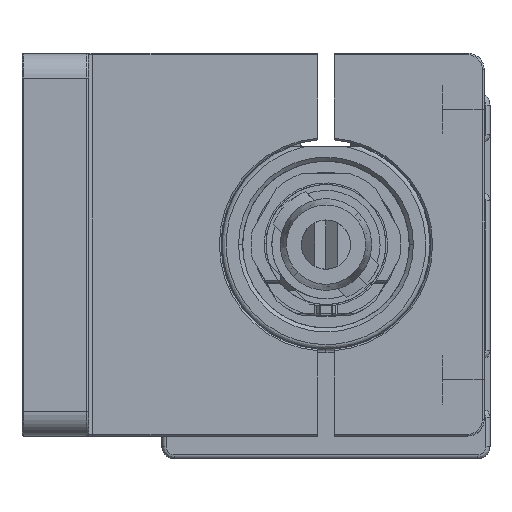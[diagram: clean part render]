
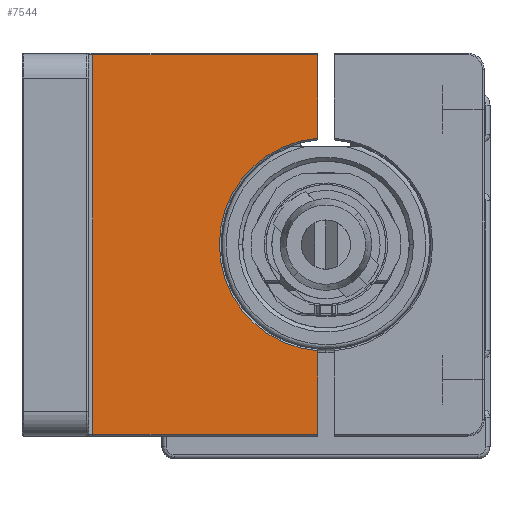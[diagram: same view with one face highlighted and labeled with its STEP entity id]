
A CAD part, front view. The second image highlights one B-rep face of the part: STEP entity #7544.
In plain terms, the highlighted planar face has unit normal (0, -1, 0) as drawn and (0, 0, 1) by its records, which use the part's own axes.
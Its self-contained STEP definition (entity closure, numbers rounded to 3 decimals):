
#18 = EDGE_LOOP ( 'NONE', ( #30661, #48080, #38301, #32821, #20050, #13032 ) ) ;
#795 = VECTOR ( 'NONE', #30886, 1000. ) ;
#3475 = VERTEX_POINT ( 'NONE', #37046 ) ;
#4375 = EDGE_CURVE ( 'NONE', #16558, #3475, #44807, .T. ) ;
#7544 = ADVANCED_FACE ( 'NONE', ( #20835 ), #49691, .T. ) ;
#8473 = VECTOR ( 'NONE', #32736, 1000. ) ;
#9714 = CARTESIAN_POINT ( 'NONE',  ( 0., 0., 8. ) ) ;
#13032 = ORIENTED_EDGE ( 'NONE', *, *, #27998, .T. ) ;
#14154 = VERTEX_POINT ( 'NONE', #18315 ) ;
#14311 = VECTOR ( 'NONE', #30705, 1000. ) ;
#14950 = CARTESIAN_POINT ( 'NONE',  ( 45.8, 7., 8. ) ) ;
#16311 = CARTESIAN_POINT ( 'NONE',  ( 0.2, 34., 8. ) ) ;
#16558 = VERTEX_POINT ( 'NONE', #42260 ) ;
#16685 = CARTESIAN_POINT ( 'NONE',  ( 45.8, 34., 8. ) ) ;
#18060 = CARTESIAN_POINT ( 'NONE',  ( 0., 7., 8. ) ) ;
#18315 = CARTESIAN_POINT ( 'NONE',  ( 0.2, 7., 8. ) ) ;
#20050 = ORIENTED_EDGE ( 'NONE', *, *, #4375, .F. ) ;
#20776 = AXIS2_PLACEMENT_3D ( 'NONE', #9714, #25683, #41797 ) ;
#20835 = FACE_OUTER_BOUND ( 'NONE', #18, .T. ) ;
#21180 = VECTOR ( 'NONE', #24740, 1000. ) ;
#21400 = VECTOR ( 'NONE', #38751, 1000. ) ;
#22296 = LINE ( 'NONE', #38078, #14311 ) ;
#22695 = CARTESIAN_POINT ( 'NONE',  ( 0.2, 7., 8. ) ) ;
#23697 = EDGE_CURVE ( 'NONE', #38161, #26353, #36927, .T. ) ;
#23921 = AXIS2_PLACEMENT_3D ( 'NONE', #33070, #28817, #29084 ) ;
#24740 = DIRECTION ( 'NONE',  ( 1., 0., 0. ) ) ;
#25683 = DIRECTION ( 'NONE',  ( 0., 0., 1. ) ) ;
#26353 = VERTEX_POINT ( 'NONE', #35302 ) ;
#27998 = EDGE_CURVE ( 'NONE', #16558, #26353, #34865, .T. ) ;
#28817 = DIRECTION ( 'NONE',  ( 0., 0., -1. ) ) ;
#29084 = DIRECTION ( 'NONE',  ( 1., 0., 0. ) ) ;
#30661 = ORIENTED_EDGE ( 'NONE', *, *, #23697, .F. ) ;
#30705 = DIRECTION ( 'NONE',  ( 0., 1., 0. ) ) ;
#30886 = DIRECTION ( 'NONE',  ( 1., 0., 0. ) ) ;
#30918 = EDGE_CURVE ( 'NONE', #31846, #3475, #22296, .T. ) ;
#31846 = VERTEX_POINT ( 'NONE', #14950 ) ;
#32736 = DIRECTION ( 'NONE',  ( 1., 0., 0. ) ) ;
#32821 = ORIENTED_EDGE ( 'NONE', *, *, #30918, .T. ) ;
#33070 = CARTESIAN_POINT ( 'NONE',  ( 23., 35., 8. ) ) ;
#34282 = LINE ( 'NONE', #22695, #21400 ) ;
#34865 = CIRCLE ( 'NONE', #23921, 12.8 ) ;
#35302 = CARTESIAN_POINT ( 'NONE',  ( 10.239, 34., 8. ) ) ;
#36089 = EDGE_CURVE ( 'NONE', #38161, #14154, #34282, .T. ) ;
#36927 = LINE ( 'NONE', #16685, #8473 ) ;
#37046 = CARTESIAN_POINT ( 'NONE',  ( 45.8, 34., 8. ) ) ;
#37580 = EDGE_CURVE ( 'NONE', #14154, #31846, #38012, .T. ) ;
#38012 = LINE ( 'NONE', #18060, #795 ) ;
#38078 = CARTESIAN_POINT ( 'NONE',  ( 45.8, 34., 8. ) ) ;
#38161 = VERTEX_POINT ( 'NONE', #16311 ) ;
#38301 = ORIENTED_EDGE ( 'NONE', *, *, #37580, .T. ) ;
#38751 = DIRECTION ( 'NONE',  ( 0., -1., 0. ) ) ;
#40051 = CARTESIAN_POINT ( 'NONE',  ( 45.8, 34., 8. ) ) ;
#41797 = DIRECTION ( 'NONE',  ( 1., 0., 0. ) ) ;
#42260 = CARTESIAN_POINT ( 'NONE',  ( 35.761, 34., 8. ) ) ;
#44807 = LINE ( 'NONE', #40051, #21180 ) ;
#48080 = ORIENTED_EDGE ( 'NONE', *, *, #36089, .T. ) ;
#49691 = PLANE ( 'NONE',  #20776 ) ;
